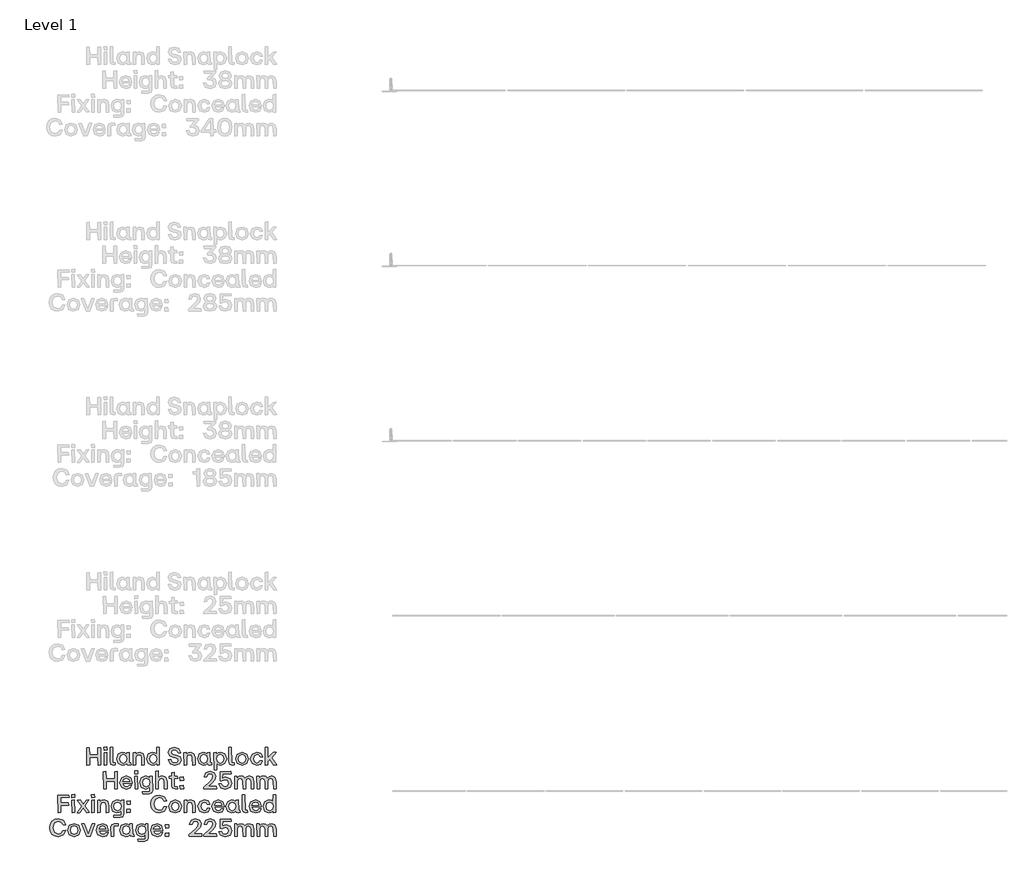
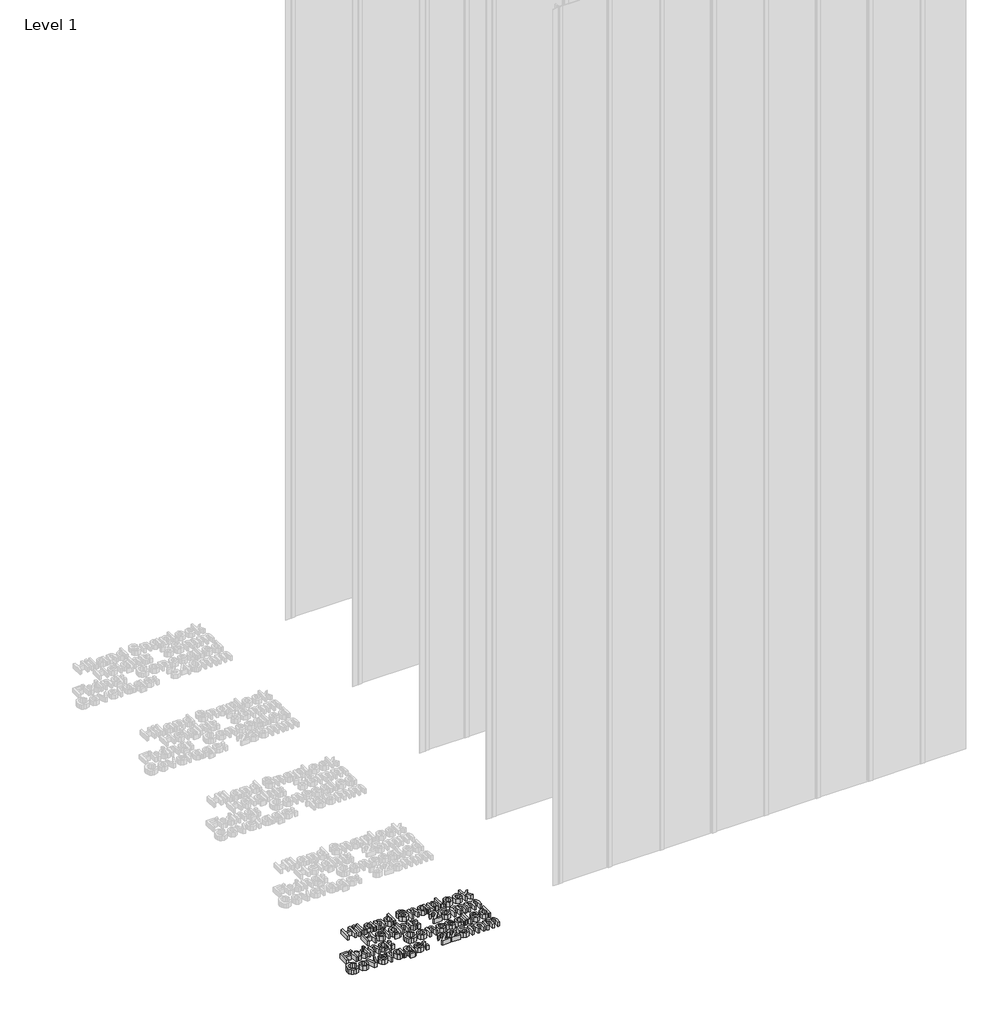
# One storey, part 4 of 64: 1 proxy.
"""IFC4 building model written with IfcOpenShell, lengths in millimetres."""

from ifc_helpers import new_model, si_unit, origin, origin_with_axes, place, context, project, spatial, polyline, outline, extrude, element, save

model = new_model("IFC4")

# Units and contexts
model_context = context("Model", 3, world=origin())
ifc_project = project(units=[si_unit("LENGTHUNIT", "METRE", prefix="MILLI")], contexts=[model_context])

# Site, building, storey
site = spatial("IfcSite", under=ifc_project)
building = spatial("IfcBuilding", under=site)
storey = spatial("IfcBuildingStorey", under=building, Name="Level 1", Elevation=0.0)

# Proxy
placement = place(None, origin())
element("IfcBuildingElementProxy", 1, Name="50mm", ObjectType="50mm", at=placement, inside=storey, context=model_context, shape_type="SweptSolid", body=[
    extrude(outline(polyline([(-811.1721134, -8933.5188866), (-811.8694452, -8911.5808277), (-835.7181932, -8911.5808277), (-835.7181932, -8932.8215548), (-843.2214836, -8933.5188866), (-843.9467087, -8884.2454206), (-836.457365, -8883.5201955), (-835.7181932, -8904.6075096), (-811.8694452, -8904.6075096), (-811.8694452, -8884.2454206), (-804.3801015, -8883.5201955), (-803.6827697, -8932.8215548), (-811.1721134, -8933.5188866)])), origin_with_axes(), (0.0, 0.0, 1.0), 20.0),
    extrude(outline(polyline([(-793.585405, -8933.5188866), (-794.3106301, -8897.8154977), (-787.1002191, -8897.1181659), (-786.4028873, -8932.8215548), (-793.585405, -8933.5188866)])), origin_with_axes(), (0.0, 0.0, 1.0), 20.0),
    extrude(outline(polyline([(-794.5198296, -8890.4516737), (-794.8684955, -8882.4044646), (-786.4726205, -8881.6652929), (-785.7334488, -8890.1030078), (-794.5198296, -8890.4516737)])), origin_with_axes(), (0.0, 0.0, 1.0), 20.0),
    extrude(outline(polyline([(-767.0031162, -8933.5188866), (-774.7016595, -8930.8690257), (-777.3515204, -8923.1565359), (-777.3515204, -8882.8228637), (-770.1411094, -8882.083692), (-769.4437776, -8927.2429003), (-762.7772854, -8927.2429003), (-762.0799536, -8932.8215548), (-767.0031162, -8933.5188866)])), origin_with_axes(), (0.0, 0.0, 1.0), 20.0),
    extrude(outline(polyline([(-741.9131175, -8933.9372857), (-753.6840786, -8928.8955767), (-758.0633224, -8915.3882594), (-753.6840786, -8901.7484491), (-741.9131175, -8896.6579269), (-735.2954386, -8898.2617901), (-730.3095161, -8902.6549805), (-729.9887435, -8897.8154977), (-722.8062258, -8897.1181659), (-722.0810007, -8927.2429003), (-718.1341027, -8927.2429003), (-717.4367709, -8932.8215548), (-723.4338245, -8933.5188866), (-728.0885143, -8932.2113895), (-729.6400776, -8928.288898), (-734.9955859, -8932.3334225), (-741.9131175, -8933.9372857)]), holes=[polyline([(-750.0021666, -8915.3882594), (-747.2477059, -8924.2792401), (-739.7234956, -8927.521833), (-732.3596717, -8924.2931867), (-729.7098108, -8915.3882594), (-732.3805916, -8906.392679), (-739.7234956, -8903.1152195), (-747.2477059, -8906.392679), (-750.0021666, -8915.3882594)])]), origin_with_axes(), (0.0, 0.0, 1.0), 20.0),
    extrude(outline(polyline([(-710.5750258, -8933.5188866), (-711.3002509, -8897.8154977), (-704.4385058, -8897.1181659), (-703.741174, -8902.6549805), (-698.5774319, -8898.1571903), (-691.9562663, -8896.6579269), (-682.3958472, -8900.8419178), (-679.083521, -8913.0870644), (-679.083521, -8932.8215548), (-686.3078786, -8933.5188866), (-687.0331037, -8913.0870644), (-688.9856328, -8905.7092939), (-695.1570194, -8903.3941522), (-701.3841925, -8905.7441604), (-703.3925081, -8913.0870644), (-703.3925081, -8932.8215548), (-710.5750258, -8933.5188866)])), origin_with_axes(), (0.0, 0.0, 1.0), 20.0),
    extrude(outline(polyline([(-656.2249842, -8933.9372857), (-667.9959452, -8928.8955767), (-672.375189, -8915.3882594), (-667.9959452, -8901.7484491), (-656.2249842, -8896.6579269), (-649.6073052, -8898.2617901), (-644.6213828, -8902.6549805), (-644.3006101, -8882.8228637), (-637.1180924, -8882.083692), (-636.3928674, -8932.8215548), (-643.2546124, -8933.5188866), (-643.9519442, -8928.0099653), (-649.3074526, -8932.3334225), (-656.2249842, -8933.9372857)]), holes=[polyline([(-664.3140332, -8915.3882594), (-661.5595725, -8924.2792401), (-654.0353623, -8927.521833), (-646.6715383, -8924.2931867), (-644.0216774, -8915.3882594), (-646.6924583, -8906.392679), (-654.0353623, -8903.1152195), (-661.5595725, -8906.392679), (-664.3140332, -8915.3882594)])]), origin_with_axes(), (0.0, 0.0, 1.0), 20.0),
    extrude(outline(polyline([(-592.2378169, -8933.9372857), (-605.8218406, -8929.823028), (-611.8049476, -8918.1078535), (-604.4411236, -8917.2989486), (-600.2780527, -8924.9417053), (-592.2378169, -8927.1034339), (-585.2854187, -8925.1160383), (-582.7959441, -8919.6001436), (-584.5183537, -8915.0186736), (-590.2852878, -8912.7383985), (-596.8820467, -8911.5808277), (-607.3629439, -8906.8180514), (-610.8565763, -8897.4668318), (-606.3797061, -8886.9022548), (-593.8835199, -8883.1017964), (-581.2897074, -8886.951068), (-575.6831596, -8897.8154977), (-583.0051436, -8898.610456), (-587.0287482, -8891.8672573), (-593.8835199, -8889.9635415), (-600.417519, -8891.706871), (-602.6699008, -8896.7973933), (-600.6615852, -8901.6299027), (-594.3716522, -8904.1612172), (-587.8167332, -8905.3048414), (-577.7193685, -8909.8932847), (-574.5953219, -8919.4606772), (-579.2883651, -8930.1019607), (-592.2378169, -8933.9372857)])), origin_with_axes(), (0.0, 0.0, 1.0), 20.0),
    extrude(outline(polyline([(-565.9763007, -8933.5188866), (-566.7015258, -8897.8154977), (-559.8397808, -8897.1181659), (-559.1424489, -8902.6549805), (-553.9787069, -8898.1571903), (-547.3575413, -8896.6579269), (-537.7971221, -8900.8419178), (-534.484796, -8913.0870644), (-534.484796, -8932.8215548), (-541.7091536, -8933.5188866), (-542.4343787, -8913.0870644), (-544.3869077, -8905.7092939), (-550.5582943, -8903.3941522), (-556.7854674, -8905.7441604), (-558.793783, -8913.0870644), (-558.793783, -8932.8215548), (-565.9763007, -8933.5188866)])), origin_with_axes(), (0.0, 0.0, 1.0), 20.0),
    extrude(outline(polyline([(-511.6262591, -8933.9372857), (-523.3972201, -8928.8955767), (-527.7764639, -8915.3882594), (-523.3972201, -8901.7484491), (-511.6262591, -8896.6579269), (-505.0085802, -8898.2617901), (-500.0226577, -8902.6549805), (-499.7018851, -8897.8154977), (-492.5193674, -8897.1181659), (-491.7941423, -8927.2429003), (-487.8472442, -8927.2429003), (-487.1499124, -8932.8215548), (-493.146966, -8933.5188866), (-497.8016559, -8932.2113895), (-499.3532192, -8928.288898), (-504.7087275, -8932.3334225), (-511.6262591, -8933.9372857)]), holes=[polyline([(-519.7153081, -8915.3882594), (-516.9608475, -8924.2792401), (-509.4366372, -8927.521833), (-502.0728132, -8924.2931867), (-499.4229523, -8915.3882594), (-502.0937332, -8906.392679), (-509.4366372, -8903.1152195), (-516.9608475, -8906.392679), (-519.7153081, -8915.3882594)])]), origin_with_axes(), (0.0, 0.0, 1.0), 20.0),
    extrude(outline(polyline([(-480.2881673, -8947.0750171), (-481.0133924, -8897.8154977), (-474.1516474, -8897.1181659), (-473.4543156, -8902.5852473), (-468.0988072, -8898.2617901), (-461.1812756, -8896.6579269), (-449.4103146, -8901.7135826), (-445.0310708, -8915.2487931), (-449.4103146, -8928.8607101), (-461.1812756, -8933.9372857), (-467.7989545, -8932.3334225), (-472.784877, -8927.9402321), (-473.1056497, -8946.3776853), (-480.2881673, -8947.0750171)]), holes=[polyline([(-473.3845824, -8915.2487931), (-470.7138015, -8924.2443735), (-463.3708975, -8927.521833), (-455.8466872, -8924.2443735), (-453.0922266, -8915.2487931), (-455.8466872, -8906.3578124), (-463.3708975, -8903.1152195), (-470.7347215, -8906.3368925), (-473.3845824, -8915.2487931)])]), origin_with_axes(), (0.0, 0.0, 1.0), 20.0),
    extrude(outline(polyline([(-427.8209216, -8933.5188866), (-435.5194648, -8930.8690257), (-438.1693257, -8923.1565359), (-438.1693257, -8882.8228637), (-430.9589148, -8882.083692), (-430.261583, -8927.2429003), (-423.5950908, -8927.2429003), (-422.897759, -8932.8215548), (-427.8209216, -8933.5188866)])), origin_with_axes(), (0.0, 0.0, 1.0), 20.0),
    extrude(outline(polyline([(-400.6807674, -8933.9372857), (-413.8394187, -8928.8118969), (-418.8811278, -8915.3882594), (-413.8254721, -8901.8530489), (-400.6807674, -8896.6579269), (-387.410543, -8901.8530489), (-382.3409407, -8915.3882594), (-387.410543, -8928.8118969), (-400.6807674, -8933.9372857)]), holes=[polyline([(-410.819972, -8915.3882594), (-408.1212979, -8924.2931867), (-400.6807674, -8927.521833), (-393.1426105, -8924.2792401), (-390.3881498, -8915.3882594), (-393.1286638, -8906.392679), (-400.6807674, -8903.1152195), (-408.1212979, -8906.392679), (-410.819972, -8915.3882594)])]), origin_with_axes(), (0.0, 0.0, 1.0), 20.0),
    extrude(outline(polyline([(-358.5898191, -8933.9372857), (-371.9228034, -8928.8955767), (-376.9296458, -8915.3882594), (-371.8530702, -8901.8530489), (-358.5898191, -8896.6579269), (-347.5161898, -8900.0957727), (-342.3001479, -8909.1820063), (-349.3153059, -8909.9490713), (-352.8856448, -8904.6493495), (-358.5898191, -8903.1152195), (-366.1488959, -8906.392679), (-368.86849, -8915.3882594), (-366.1349493, -8924.3141067), (-358.5898191, -8927.521833), (-352.7113119, -8926.0574362), (-349.733705, -8921.3155799), (-342.6488138, -8920.6461413), (-347.3069903, -8930.4994399), (-358.5898191, -8933.9372857)])), origin_with_axes(), (0.0, 0.0, 1.0), 20.0),
    extrude(outline(polyline([(-333.9042728, -8933.5188866), (-334.6294979, -8882.8228637), (-327.4190869, -8882.083692), (-326.7217551, -8912.8778649), (-311.4780817, -8897.4668318), (-303.5703389, -8897.1181659), (-316.2896712, -8912.0410667), (-302.2035685, -8932.6402485), (-309.8463252, -8933.5188866), (-321.5614997, -8917.2292154), (-326.7217551, -8922.2918444), (-326.7217551, -8932.8215548), (-333.9042728, -8933.5188866)])), origin_with_axes(), (0.0, 0.0, 1.0), 20.0),
    extrude(outline(polyline([(-763.8651231, -9001.3705811), (-764.5624549, -8979.4325222), (-788.4112029, -8979.4325222), (-788.4112029, -9000.6732493), (-795.9144933, -9001.3705811), (-796.6397184, -8952.0971151), (-789.1503747, -8951.37189), (-788.4112029, -8972.459204), (-764.5624549, -8972.459204), (-764.5624549, -8952.0971151), (-757.0731112, -8951.37189), (-756.3757794, -9000.6732493), (-763.8651231, -9001.3705811)])), origin_with_axes(), (0.0, 0.0, 1.0), 20.0),
    extrude(outline(polyline([(-730.7279152, -9001.7889802), (-744.1306327, -8996.7472711), (-749.1374751, -8983.2399539), (-744.1515527, -8969.586197), (-730.7279152, -8964.5096214), (-718.447902, -8969.5164638), (-713.9501118, -8983.1702207), (-713.9501118, -8985.0809099), (-741.0065862, -8985.8200816), (-737.9383262, -8992.8631329), (-730.7279152, -8995.3735275), (-724.9400612, -8994.0974102), (-721.9415344, -8990.520098), (-714.8566431, -8989.9343393), (-719.5148197, -8998.6998002), (-730.7279152, -9001.7889802)]), holes=[polyline([(-740.936853, -8980.0322275), (-721.7323348, -8980.0322275), (-724.3752224, -8973.3866554), (-730.7279152, -8970.966914), (-737.8197798, -8973.2681089), (-740.936853, -8980.0322275)])]), origin_with_axes(), (0.0, 0.0, 1.0), 20.0),
    extrude(outline(polyline([(-707.0465268, -8958.3033682), (-707.3951927, -8950.2561591), (-698.9993177, -8949.5169873), (-698.2601459, -8957.9547023), (-707.0465268, -8958.3033682)])), origin_with_axes(), (0.0, 0.0, 1.0), 20.0),
    extrude(outline(polyline([(-706.1121022, -9001.3705811), (-706.8373273, -8965.6671922), (-699.6269163, -8964.9698603), (-698.9295845, -9000.6732493), (-706.1121022, -9001.3705811)])), origin_with_axes(), (0.0, 0.0, 1.0), 20.0),
    extrude(outline(polyline([(-684.4390294, -9014.9267115), (-685.1782011, -9009.348057), (-663.937474, -9008.6507252), (-663.937474, -8995.7919266), (-669.2441691, -9000.185117), (-675.8618481, -9001.7889802), (-687.6328091, -8996.7124045), (-692.0120529, -8983.1004875), (-687.6328091, -8969.565277), (-675.8618481, -8964.5096214), (-668.9443165, -8966.1134845), (-663.8677409, -8970.4369418), (-663.5888081, -8965.6671922), (-656.7549563, -8964.9698603), (-656.0297313, -9004.9269733), (-658.609859, -9012.3675038), (-666.0294695, -9014.9267115), (-684.4390294, -9014.9267115)]), holes=[polyline([(-683.9508971, -8983.1004875), (-681.1964364, -8992.0960679), (-673.6722262, -8995.3735275), (-666.3293222, -8992.0960679), (-663.6585413, -8983.1004875), (-666.3084022, -8974.1885869), (-673.6722262, -8970.966914), (-681.1964364, -8974.2095069), (-683.9508971, -8983.1004875)])]), origin_with_axes(), (0.0, 0.0, 1.0), 20.0),
    extrude(outline(polyline([(-646.3089258, -9001.3705811), (-647.0341508, -8950.6745581), (-639.8237399, -8949.9353864), (-639.1264081, -8970.2277422), (-634.0393725, -8965.9391516), (-627.6901663, -8964.5096214), (-618.1297471, -8968.6936122), (-614.817421, -8980.9387589), (-614.817421, -9000.6732493), (-622.0417786, -9001.3705811), (-622.7670037, -8980.9387589), (-624.7195328, -8973.5609883), (-630.8909193, -8971.2458467), (-637.1180924, -8973.5958549), (-639.1264081, -8980.9387589), (-639.1264081, -9000.6732493), (-646.3089258, -9001.3705811)])), origin_with_axes(), (0.0, 0.0, 1.0), 20.0),
    extrude(outline(polyline([(-591.540485, -9001.3705811), (-599.2529749, -8998.7207202), (-601.9028358, -8991.0082303), (-601.9028358, -8971.2458467), (-608.109089, -8971.2458467), (-608.834314, -8965.6671922), (-601.9028358, -8964.9698603), (-601.9028358, -8954.9561755), (-594.6784782, -8954.2309504), (-593.9811464, -8964.9698603), (-585.1947655, -8964.9698603), (-584.4695404, -8970.506675), (-593.9811464, -8971.2458467), (-593.9811464, -8995.0945947), (-585.1947655, -8995.0945947), (-584.4695404, -9000.6732493), (-591.540485, -9001.3705811)])), origin_with_axes(), (0.0, 0.0, 1.0), 20.0),
    extrude(outline(polyline([(-577.0638766, -8977.7310326), (-577.7612084, -8968.1078535), (-568.2774957, -8967.3686818), (-567.5522706, -8977.0337007), (-577.0638766, -8977.7310326)])), origin_with_axes(), (0.0, 0.0, 1.0), 20.0),
    extrude(outline(polyline([(-577.4125425, -9001.0219152), (-577.7612084, -8991.747402), (-568.2774957, -8991.0082303), (-567.5522706, -9000.6732493), (-577.4125425, -9001.0219152)])), origin_with_axes(), (0.0, 0.0, 1.0), 20.0),
    extrude(outline(polyline([(-509.5761036, -9001.3705811), (-510.3013286, -8996.5868848), (-492.9377665, -8980.590093), (-485.7901154, -8972.6753769), (-483.8027197, -8965.3882594), (-485.783142, -8959.7084918), (-491.7244091, -8957.8152359), (-498.5931275, -8959.8932847), (-501.4452146, -8966.4621504), (-508.8787717, -8967.1594822), (-504.2903284, -8954.9631488), (-491.7244091, -8950.9534909), (-479.8976615, -8954.8236824), (-475.5742043, -8965.3882594), (-478.2589318, -8975.1648515), (-487.4288451, -8985.5690422), (-496.8846645, -8994.0764903), (-474.1516474, -8994.355423), (-473.4543156, -9000.6732493), (-509.5761036, -9001.3705811)])), origin_with_axes(), (0.0, 0.0, 1.0), 20.0),
    extrude(outline(polyline([(-448.1969572, -9001.7889802), (-461.3974485, -8998.0931215), (-467.2062225, -8987.3821049), (-459.8423985, -8986.5871466), (-455.634001, -8993.0200326), (-448.1969572, -8994.9551284), (-440.7912934, -8992.2704009), (-438.197219, -8984.6625108), (-440.7773467, -8977.3614467), (-448.3364236, -8974.8719721), (-458.6987744, -8978.8049235), (-463.5382572, -8978.5259908), (-462.4922594, -8952.0971151), (-432.8556573, -8951.37189), (-432.1304322, -8957.6757696), (-455.8397139, -8958.3731014), (-456.6346722, -8971.0366471), (-451.4604701, -8968.8400519), (-445.7562959, -8968.0381203), (-434.2015077, -8972.4661774), (-429.9965969, -8984.6625108), (-434.8081864, -8997.27027), (-448.1969572, -9001.7889802)])), origin_with_axes(), (0.0, 0.0, 1.0), 20.0),
    extrude(outline(polyline([(-421.3775756, -9001.3705811), (-422.1028007, -8965.6671922), (-415.2410557, -8964.9698603), (-414.5437239, -8970.506675), (-409.5578014, -8966.0088848), (-403.1074821, -8964.5096214), (-396.8210358, -8966.0088848), (-392.605665, -8970.506675), (-386.7829443, -8966.0646713), (-379.5376668, -8964.5096214), (-370.2631536, -8968.6796656), (-367.0554273, -8980.9387589), (-367.0554273, -9000.6732493), (-374.2658383, -9001.3705811), (-374.9631701, -8980.9387589), (-376.845966, -8973.5609883), (-382.8151263, -8971.2458467), (-388.7215268, -8973.5958549), (-390.6252426, -8980.9387589), (-390.6252426, -9000.6732493), (-397.8356536, -9001.3705811), (-398.5329854, -8980.9387589), (-400.4018347, -8973.5609883), (-406.3152085, -8971.2458467), (-412.2913421, -8973.5958549), (-414.195058, -8980.9387589), (-414.195058, -9000.6732493), (-421.3775756, -9001.3705811)])), origin_with_axes(), (0.0, 0.0, 1.0), 20.0),
    extrude(outline(polyline([(-358.0040603, -9001.3705811), (-358.7292854, -8965.6671922), (-351.8675404, -8964.9698603), (-351.1702086, -8970.506675), (-346.1842861, -8966.0088848), (-339.7339668, -8964.5096214), (-333.4475205, -8966.0088848), (-329.2321497, -8970.506675), (-323.409429, -8966.0646713), (-316.1641515, -8964.5096214), (-306.8896383, -8968.6796656), (-303.681912, -8980.9387589), (-303.681912, -9000.6732493), (-310.8923229, -9001.3705811), (-311.5896548, -8980.9387589), (-313.4724507, -8973.5609883), (-319.441611, -8971.2458467), (-325.3480115, -8973.5958549), (-327.2517273, -8980.9387589), (-327.2517273, -9000.6732493), (-334.4621383, -9001.3705811), (-335.1594701, -8980.9387589), (-337.0283194, -8973.5609883), (-342.9416931, -8971.2458467), (-348.9178268, -8973.5958549), (-350.8215426, -8980.9387589), (-350.8215426, -9000.6732493), (-358.0040603, -9001.3705811)])), origin_with_axes(), (0.0, 0.0, 1.0), 20.0),
    extrude(outline(polyline([(-925.3392781, -9069.2222755), (-926.0645031, -9019.9488095), (-894.4753719, -9019.2235844), (-893.7780401, -9025.527464), (-917.8359877, -9026.2247958), (-917.8359877, -9041.287163), (-895.9118755, -9041.287163), (-895.2145437, -9047.5631494), (-917.8359877, -9048.3023211), (-917.8359877, -9068.5249437), (-925.3392781, -9069.2222755)])), origin_with_axes(), (0.0, 0.0, 1.0), 20.0),
    extrude(outline(polyline([(-885.5216314, -9069.2222755), (-886.2468565, -9033.5188866), (-879.0364456, -9032.8215548), (-878.3391137, -9068.5249437), (-885.5216314, -9069.2222755)])), origin_with_axes(), (0.0, 0.0, 1.0), 20.0),
    extrude(outline(polyline([(-886.4560561, -9026.1550627), (-886.804722, -9018.1078535), (-878.4088469, -9017.3686818), (-877.6696752, -9025.8063967), (-886.4560561, -9026.1550627)])), origin_with_axes(), (0.0, 0.0, 1.0), 20.0),
    extrude(outline(polyline([(-871.4215821, -9069.2222755), (-858.6604099, -9050.7429824), (-870.8637167, -9033.658353), (-862.8722941, -9032.8215548), (-854.0859132, -9044.815662), (-845.8573978, -9033.2399539), (-837.7404555, -9032.8215548), (-849.3440569, -9049.9340775), (-836.303952, -9068.3436374), (-844.2953746, -9069.2222755), (-854.0161801, -9055.7916648), (-863.2906932, -9068.8038764), (-871.4215821, -9069.2222755)])), origin_with_axes(), (0.0, 0.0, 1.0), 20.0),
    extrude(outline(polyline([(-829.2887939, -9069.2222755), (-830.014019, -9033.5188866), (-822.803608, -9032.8215548), (-822.1062762, -9068.5249437), (-829.2887939, -9069.2222755)])), origin_with_axes(), (0.0, 0.0, 1.0), 20.0),
    extrude(outline(polyline([(-830.2232185, -9026.1550627), (-830.5718844, -9018.1078535), (-822.1760094, -9017.3686818), (-821.4368377, -9025.8063967), (-830.2232185, -9026.1550627)])), origin_with_axes(), (0.0, 0.0, 1.0), 20.0),
    extrude(outline(polyline([(-812.3296842, -9069.2222755), (-813.0549093, -9033.5188866), (-806.1931642, -9032.8215548), (-805.4958324, -9038.3583694), (-800.3320903, -9033.8605792), (-793.7109247, -9032.3613158), (-784.1505056, -9036.5453067), (-780.8381794, -9048.7904534), (-780.8381794, -9068.5249437), (-788.062537, -9069.2222755), (-788.7877621, -9048.7904534), (-790.7402912, -9041.4126828), (-796.9116778, -9039.0975411), (-803.1388509, -9041.4475493), (-805.1471665, -9048.7904534), (-805.1471665, -9068.5249437), (-812.3296842, -9069.2222755)])), origin_with_axes(), (0.0, 0.0, 1.0), 20.0),
    extrude(outline(polyline([(-766.5568239, -9082.778406), (-767.2959956, -9077.1997515), (-746.0552685, -9076.5024197), (-746.0552685, -9063.643621), (-751.3619636, -9068.0368114), (-757.9796426, -9069.6406746), (-769.7506036, -9064.564099), (-774.1298474, -9050.952182), (-769.7506036, -9037.4169715), (-757.9796426, -9032.3613158), (-751.0621109, -9033.965179), (-745.9855353, -9038.2886362), (-745.7066026, -9033.5188866), (-738.8727508, -9032.8215548), (-738.1475257, -9072.7786678), (-740.7276535, -9080.2191982), (-748.147264, -9082.778406), (-766.5568239, -9082.778406)]), holes=[polyline([(-766.0686916, -9050.952182), (-763.3142309, -9059.9477624), (-755.7900207, -9063.2252219), (-748.4471166, -9059.9477624), (-745.7763358, -9050.952182), (-748.4261967, -9042.0402814), (-755.7900207, -9038.8186084), (-763.3142309, -9042.0612013), (-766.0686916, -9050.952182)])]), origin_with_axes(), (0.0, 0.0, 1.0), 20.0),
    extrude(outline(polyline([(-729.1519453, -9068.8736096), (-729.5006112, -9059.5990965), (-720.0168986, -9058.8599248), (-719.2916735, -9068.5249437), (-729.1519453, -9068.8736096)])), origin_with_axes(), (0.0, 0.0, 1.0), 20.0),
    extrude(outline(polyline([(-728.8032794, -9045.582727), (-729.5006112, -9035.959548), (-720.0168986, -9035.2203762), (-719.2916735, -9044.8853952), (-728.8032794, -9045.582727)])), origin_with_axes(), (0.0, 0.0, 1.0), 20.0),
    extrude(outline(polyline([(-637.0483593, -9069.6406746), (-647.0550708, -9067.9269817), (-654.7605874, -9062.7859029), (-659.6767766, -9054.7160305), (-661.3155064, -9044.2159567), (-659.66283, -9033.8919591), (-654.7048008, -9025.7924501), (-646.9853376, -9020.5520015), (-637.0483593, -9018.8051853), (-622.8716035, -9023.4215219), (-615.9192053, -9035.7085085), (-623.2411893, -9036.5174134), (-628.4049314, -9028.3272513), (-637.0483593, -9025.8063967), (-648.7077472, -9030.743506), (-652.9475246, -9044.2159567), (-648.7286672, -9057.7999804), (-637.0483593, -9062.6673565), (-628.2340851, -9060.1813685), (-623.5480153, -9052.7234048), (-616.1284048, -9052.0679129), (-622.5926707, -9065.0382846), (-637.0483593, -9069.6406746)])), origin_with_axes(), (0.0, 0.0, 1.0), 20.0),
    extrude(outline(polyline([(-591.693898, -9069.6406746), (-604.8525494, -9064.5152858), (-609.8942584, -9051.0916483), (-604.8386027, -9037.5564378), (-591.693898, -9032.3613158), (-578.4236736, -9037.5564378), (-573.3540713, -9051.0916483), (-578.4236736, -9064.5152858), (-591.693898, -9069.6406746)]), holes=[polyline([(-601.8331026, -9051.0916483), (-599.1344285, -9059.9965756), (-591.693898, -9063.2252219), (-584.1557411, -9059.982629), (-581.4012805, -9051.0916483), (-584.1417945, -9042.0960679), (-591.693898, -9038.8186084), (-599.1344285, -9042.0960679), (-601.8331026, -9051.0916483)])]), origin_with_axes(), (0.0, 0.0, 1.0), 20.0),
    extrude(outline(polyline([(-565.083716, -9069.2222755), (-565.8089411, -9033.5188866), (-558.947196, -9032.8215548), (-558.2498642, -9038.3583694), (-553.0861221, -9033.8605792), (-546.4649565, -9032.3613158), (-536.9045374, -9036.5453067), (-533.5922113, -9048.7904534), (-533.5922113, -9068.5249437), (-540.8165689, -9069.2222755), (-541.5417939, -9048.7904534), (-543.494323, -9041.4126828), (-549.6657096, -9039.0975411), (-555.8928827, -9041.4475493), (-557.9011983, -9048.7904534), (-557.9011983, -9068.5249437), (-565.083716, -9069.2222755)])), origin_with_axes(), (0.0, 0.0, 1.0), 20.0),
    extrude(outline(polyline([(-508.5440525, -9069.6406746), (-521.8770368, -9064.5989656), (-526.8838792, -9051.0916483), (-521.8073036, -9037.5564378), (-508.5440525, -9032.3613158), (-497.4704233, -9035.7991616), (-492.2543813, -9044.8853952), (-499.2695393, -9045.6524602), (-502.8398782, -9040.3527384), (-508.5440525, -9038.8186084), (-516.1031293, -9042.0960679), (-518.8227234, -9051.0916483), (-516.0891827, -9060.0174956), (-508.5440525, -9063.2252219), (-502.6655453, -9061.7608251), (-499.6879384, -9057.0189688), (-492.6030472, -9056.3495302), (-497.2612237, -9066.2028288), (-508.5440525, -9069.6406746)])), origin_with_axes(), (0.0, 0.0, 1.0), 20.0),
    extrude(outline(polyline([(-468.3080068, -9069.6406746), (-481.7107242, -9064.5989656), (-486.7175667, -9051.0916483), (-481.7316442, -9037.4378914), (-468.3080068, -9032.3613158), (-456.0279935, -9037.3681582), (-451.5302033, -9051.0219152), (-451.5302033, -9052.9326043), (-478.5866777, -9053.6717761), (-475.5184177, -9060.7148274), (-468.3080068, -9063.2252219), (-462.5201527, -9061.9491047), (-459.5216259, -9058.3717925), (-452.4367347, -9057.7860338), (-457.0949112, -9066.5514947), (-468.3080068, -9069.6406746)]), holes=[polyline([(-478.5169445, -9047.883922), (-459.3124264, -9047.883922), (-461.9553139, -9041.2383498), (-468.3080068, -9038.8186084), (-475.3998713, -9041.1198034), (-478.5169445, -9047.883922)])]), origin_with_axes(), (0.0, 0.0, 1.0), 20.0),
    extrude(outline(polyline([(-430.4010493, -9069.6406746), (-442.1720104, -9064.5989656), (-446.5512542, -9051.0916483), (-442.1720104, -9037.4518381), (-430.4010493, -9032.3613158), (-423.7833704, -9033.965179), (-418.7974479, -9038.3583694), (-418.4766753, -9033.5188866), (-411.2941576, -9032.8215548), (-410.5689325, -9062.9462892), (-406.6220345, -9062.9462892), (-405.9247026, -9068.5249437), (-411.9217562, -9069.2222755), (-416.5764461, -9067.9147784), (-418.1280094, -9063.9922869), (-423.4835177, -9068.0368114), (-430.4010493, -9069.6406746)]), holes=[polyline([(-438.4900984, -9051.0916483), (-435.7356377, -9059.982629), (-428.2114274, -9063.2252219), (-420.8476035, -9059.9965756), (-418.1977426, -9051.0916483), (-420.8685234, -9042.0960679), (-428.2114274, -9038.8186084), (-435.7356377, -9042.0960679), (-438.4900984, -9051.0916483)])]), origin_with_axes(), (0.0, 0.0, 1.0), 20.0),
    extrude(outline(polyline([(-389.4397785, -9069.2222755), (-397.1383218, -9066.5724146), (-399.7881827, -9058.8599248), (-399.7881827, -9018.5262526), (-392.5777717, -9017.7870809), (-391.8804399, -9062.9462892), (-385.2139477, -9062.9462892), (-384.5166159, -9068.5249437), (-389.4397785, -9069.2222755)])), origin_with_axes(), (0.0, 0.0, 1.0), 20.0),
    extrude(outline(polyline([(-362.0904248, -9069.6406746), (-375.4931422, -9064.5989656), (-380.4999847, -9051.0916483), (-375.5140622, -9037.4378914), (-362.0904248, -9032.3613158), (-349.8104115, -9037.3681582), (-345.3126213, -9051.0219152), (-345.3126213, -9052.9326043), (-372.3690957, -9053.6717761), (-369.3008357, -9060.7148274), (-362.0904248, -9063.2252219), (-356.3025707, -9061.9491047), (-353.3040439, -9058.3717925), (-346.2191527, -9057.7860338), (-350.8773292, -9066.5514947), (-362.0904248, -9069.6406746)]), holes=[polyline([(-372.2993625, -9047.883922), (-353.0948444, -9047.883922), (-355.7377319, -9041.2383498), (-362.0904248, -9038.8186084), (-369.1822893, -9041.1198034), (-372.2993625, -9047.883922)])]), origin_with_axes(), (0.0, 0.0, 1.0), 20.0),
    extrude(outline(polyline([(-324.1834673, -9069.6406746), (-335.9544284, -9064.5989656), (-340.3336722, -9051.0916483), (-335.9544284, -9037.4518381), (-324.1834673, -9032.3613158), (-317.5657884, -9033.965179), (-312.5798659, -9038.3583694), (-312.2590933, -9018.5262526), (-305.0765756, -9017.7870809), (-304.3513505, -9068.5249437), (-311.2130956, -9069.2222755), (-311.9104274, -9063.7133542), (-317.2659357, -9068.0368114), (-324.1834673, -9069.6406746)]), holes=[polyline([(-332.2725164, -9051.0916483), (-329.5180557, -9059.982629), (-321.9938454, -9063.2252219), (-314.6300215, -9059.9965756), (-311.9801606, -9051.0916483), (-314.6509414, -9042.0960679), (-321.9938454, -9038.8186084), (-329.5180557, -9042.0960679), (-332.2725164, -9051.0916483)])]), origin_with_axes(), (0.0, 0.0, 1.0), 20.0),
    extrude(outline(polyline([(-925.3532247, -9137.4923691), (-935.3599362, -9135.7786761), (-943.0654528, -9130.6375973), (-947.9816421, -9122.5677249), (-949.6203718, -9112.0676511), (-947.9676954, -9101.7436536), (-943.0096662, -9093.6441446), (-935.290203, -9088.403696), (-925.3532247, -9086.6568798), (-911.1764689, -9091.2732164), (-904.2240707, -9103.560203), (-911.5460548, -9104.3691079), (-916.7097968, -9096.1789457), (-925.3532247, -9093.6580912), (-937.0126126, -9098.5952004), (-941.2523901, -9112.0676511), (-937.0335326, -9125.6516749), (-925.3532247, -9130.5190509), (-916.5389506, -9128.033063), (-911.8528808, -9120.5750992), (-904.4332703, -9119.9196073), (-910.8975362, -9132.8899791), (-925.3532247, -9137.4923691)])), origin_with_axes(), (0.0, 0.0, 1.0), 20.0),
    extrude(outline(polyline([(-879.9987635, -9137.4923691), (-893.1574148, -9132.3669802), (-898.1991238, -9118.9433428), (-893.1434682, -9105.4081323), (-879.9987635, -9100.2130103), (-866.728539, -9105.4081323), (-861.6589367, -9118.9433428), (-866.728539, -9132.3669802), (-879.9987635, -9137.4923691)]), holes=[polyline([(-890.1379681, -9118.9433428), (-887.4392939, -9127.8482701), (-879.9987635, -9131.0769164), (-872.4606066, -9127.8343234), (-869.7061459, -9118.9433428), (-872.4466599, -9109.9477624), (-879.9987635, -9106.6703029), (-887.4392939, -9109.9477624), (-890.1379681, -9118.9433428)])]), origin_with_axes(), (0.0, 0.0, 1.0), 20.0),
    extrude(outline(polyline([(-843.5562028, -9137.07397), (-857.9491315, -9101.5100474), (-850.6968806, -9100.6732493), (-839.2606389, -9130.5887841), (-828.4241025, -9101.2311147), (-821.0602785, -9100.6732493), (-834.1701166, -9136.5161045), (-843.5562028, -9137.07397)])), origin_with_axes(), (0.0, 0.0, 1.0), 20.0),
    extrude(outline(polyline([(-798.5643542, -9137.4923691), (-811.9670716, -9132.45066), (-816.9739141, -9118.9433428), (-811.9879916, -9105.2895859), (-798.5643542, -9100.2130103), (-786.2843409, -9105.2198527), (-781.7865507, -9118.8736096), (-781.7865507, -9120.7842988), (-808.8430251, -9121.5234705), (-805.7747651, -9128.5665218), (-798.5643542, -9131.0769164), (-792.7765001, -9129.8007992), (-789.7779733, -9126.2234869), (-782.6930821, -9125.6377282), (-787.3512586, -9134.4031891), (-798.5643542, -9137.4923691)]), holes=[polyline([(-808.7732919, -9115.7356165), (-789.5687738, -9115.7356165), (-792.2116613, -9109.0900443), (-798.5643542, -9106.6703029), (-805.6562187, -9108.9714978), (-808.7732919, -9115.7356165)])]), origin_with_axes(), (0.0, 0.0, 1.0), 20.0),
    extrude(outline(polyline([(-774.3251003, -9137.07397), (-775.0224321, -9110.9937601), (-772.3725712, -9103.3021902), (-764.674028, -9100.6732493), (-754.5208768, -9100.6732493), (-753.8235449, -9106.6703029), (-767.1146893, -9107.3676347), (-767.1146893, -9136.3766382), (-774.3251003, -9137.07397)])), origin_with_axes(), (0.0, 0.0, 1.0), 20.0),
    extrude(outline(polyline([(-732.9872703, -9137.4923691), (-744.7582313, -9132.45066), (-749.1374751, -9118.9433428), (-744.7582313, -9105.3035325), (-732.9872703, -9100.2130103), (-726.3695914, -9101.8168734), (-721.3836689, -9106.2100639), (-721.0628963, -9101.3705811), (-713.8803786, -9100.6732493), (-713.1551535, -9130.7979836), (-709.2082554, -9130.7979836), (-708.5109236, -9136.3766382), (-714.5079772, -9137.07397), (-719.1626671, -9135.7664728), (-720.7142304, -9131.8439814), (-726.0697387, -9135.8885059), (-732.9872703, -9137.4923691)]), holes=[polyline([(-741.0763194, -9118.9433428), (-738.3218587, -9127.8343234), (-730.7976484, -9131.0769164), (-723.4338245, -9127.8482701), (-720.7839636, -9118.9433428), (-723.4547444, -9109.9477624), (-730.7976484, -9106.6703029), (-738.3218587, -9109.9477624), (-741.0763194, -9118.9433428)])]), origin_with_axes(), (0.0, 0.0, 1.0), 20.0),
    extrude(outline(polyline([(-696.9352155, -9150.6301005), (-697.6743872, -9145.0514459), (-676.4336602, -9144.3541141), (-676.4336602, -9131.4953155), (-681.7403553, -9135.8885059), (-688.3580342, -9137.4923691), (-700.1289952, -9132.4157935), (-704.508239, -9118.8038764), (-700.1289952, -9105.2686659), (-688.3580342, -9100.2130103), (-681.4405026, -9101.8168734), (-676.363927, -9106.1403307), (-676.0849942, -9101.3705811), (-669.2511425, -9100.6732493), (-668.5259174, -9140.6303622), (-671.1060451, -9148.0708927), (-678.5256556, -9150.6301005), (-696.9352155, -9150.6301005)]), holes=[polyline([(-696.4470832, -9118.8038764), (-693.6926226, -9127.7994568), (-686.1684123, -9131.0769164), (-678.8255083, -9127.7994568), (-676.1547274, -9118.8038764), (-678.8045883, -9109.8919758), (-686.1684123, -9106.6703029), (-693.6926226, -9109.9128958), (-696.4470832, -9118.8038764)])]), origin_with_axes(), (0.0, 0.0, 1.0), 20.0),
    extrude(outline(polyline([(-643.2546124, -9137.4923691), (-656.6573299, -9132.45066), (-661.6641723, -9118.9433428), (-656.6782498, -9105.2895859), (-643.2546124, -9100.2130103), (-630.9745992, -9105.2198527), (-626.476809, -9118.8736096), (-626.476809, -9120.7842988), (-653.5332834, -9121.5234705), (-650.4650234, -9128.5665218), (-643.2546124, -9131.0769164), (-637.4667584, -9129.8007992), (-634.4682316, -9126.2234869), (-627.3833403, -9125.6377282), (-632.0415168, -9134.4031891), (-643.2546124, -9137.4923691)]), holes=[polyline([(-653.4635502, -9115.7356165), (-634.259032, -9115.7356165), (-636.9019196, -9109.0900443), (-643.2546124, -9106.6703029), (-650.346477, -9108.9714978), (-653.4635502, -9115.7356165)])]), origin_with_axes(), (0.0, 0.0, 1.0), 20.0),
    extrude(outline(polyline([(-619.0153585, -9113.4344215), (-619.7126904, -9103.8112424), (-610.2289777, -9103.0720707), (-609.5037526, -9112.7370896), (-619.0153585, -9113.4344215)])), origin_with_axes(), (0.0, 0.0, 1.0), 20.0),
    extrude(outline(polyline([(-619.3640244, -9136.7253041), (-619.7126904, -9127.4507909), (-610.2289777, -9126.7116192), (-609.5037526, -9136.3766382), (-619.3640244, -9136.7253041)])), origin_with_axes(), (0.0, 0.0, 1.0), 20.0),
    extrude(outline(polyline([(-551.5275855, -9137.07397), (-552.2528106, -9132.2902737), (-534.8892484, -9116.2934819), (-527.7415973, -9108.3787658), (-525.7542017, -9101.0916483), (-527.734624, -9095.4118807), (-533.6758911, -9093.5186248), (-540.5446094, -9095.5966736), (-543.3966966, -9102.1655393), (-550.8302537, -9102.8628712), (-546.2418104, -9090.6665377), (-533.6758911, -9086.6568798), (-521.8491435, -9090.5270714), (-517.5256862, -9101.0916483), (-520.2104137, -9110.8682404), (-529.3803271, -9121.2724311), (-538.8361465, -9129.7798792), (-516.1031293, -9130.0588119), (-515.4057975, -9136.3766382), (-551.5275855, -9137.07397)])), origin_with_axes(), (0.0, 0.0, 1.0), 20.0),
    extrude(outline(polyline([(-509.5761036, -9137.07397), (-510.3013286, -9132.2902737), (-492.9377665, -9116.2934819), (-485.7901154, -9108.3787658), (-483.8027197, -9101.0916483), (-485.783142, -9095.4118807), (-491.7244091, -9093.5186248), (-498.5931275, -9095.5966736), (-501.4452146, -9102.1655393), (-508.8787717, -9102.8628712), (-504.2903284, -9090.6665377), (-491.7244091, -9086.6568798), (-479.8976615, -9090.5270714), (-475.5742043, -9101.0916483), (-478.2589318, -9110.8682404), (-487.4288451, -9121.2724311), (-496.8846645, -9129.7798792), (-474.1516474, -9130.0588119), (-473.4543156, -9136.3766382), (-509.5761036, -9137.07397)])), origin_with_axes(), (0.0, 0.0, 1.0), 20.0),
    extrude(outline(polyline([(-448.1969572, -9137.4923691), (-461.3974485, -9133.7965104), (-467.2062225, -9123.0854938), (-459.8423985, -9122.2905355), (-455.634001, -9128.7234215), (-448.1969572, -9130.6585173), (-440.7912934, -9127.9737898), (-438.197219, -9120.3658997), (-440.7773467, -9113.0648356), (-448.3364236, -9110.575361), (-458.6987744, -9114.5083125), (-463.5382572, -9114.2293797), (-462.4922594, -9087.800504), (-432.8556573, -9087.0752789), (-432.1304322, -9093.3791585), (-455.8397139, -9094.0764903), (-456.6346722, -9106.740036), (-451.4604701, -9104.5434408), (-445.7562959, -9103.7415092), (-434.2015077, -9108.1695663), (-429.9965969, -9120.3658997), (-434.8081864, -9132.9736589), (-448.1969572, -9137.4923691)])), origin_with_axes(), (0.0, 0.0, 1.0), 20.0),
    extrude(outline(polyline([(-421.3775756, -9137.07397), (-422.1028007, -9101.3705811), (-415.2410557, -9100.6732493), (-414.5437239, -9106.2100639), (-409.5578014, -9101.7122737), (-403.1074821, -9100.2130103), (-396.8210358, -9101.7122737), (-392.605665, -9106.2100639), (-386.7829443, -9101.7680602), (-379.5376668, -9100.2130103), (-370.2631536, -9104.3830545), (-367.0554273, -9116.6421478), (-367.0554273, -9136.3766382), (-374.2658383, -9137.07397), (-374.9631701, -9116.6421478), (-376.845966, -9109.2643772), (-382.8151263, -9106.9492356), (-388.7215268, -9109.2992438), (-390.6252426, -9116.6421478), (-390.6252426, -9136.3766382), (-397.8356536, -9137.07397), (-398.5329854, -9116.6421478), (-400.4018347, -9109.2643772), (-406.3152085, -9106.9492356), (-412.2913421, -9109.2992438), (-414.195058, -9116.6421478), (-414.195058, -9136.3766382), (-421.3775756, -9137.07397)])), origin_with_axes(), (0.0, 0.0, 1.0), 20.0),
    extrude(outline(polyline([(-358.0040603, -9137.07397), (-358.7292854, -9101.3705811), (-351.8675404, -9100.6732493), (-351.1702086, -9106.2100639), (-346.1842861, -9101.7122737), (-339.7339668, -9100.2130103), (-333.4475205, -9101.7122737), (-329.2321497, -9106.2100639), (-323.409429, -9101.7680602), (-316.1641515, -9100.2130103), (-306.8896383, -9104.3830545), (-303.681912, -9116.6421478), (-303.681912, -9136.3766382), (-310.8923229, -9137.07397), (-311.5896548, -9116.6421478), (-313.4724507, -9109.2643772), (-319.441611, -9106.9492356), (-325.3480115, -9109.2992438), (-327.2517273, -9116.6421478), (-327.2517273, -9136.3766382), (-334.4621383, -9137.07397), (-335.1594701, -9116.6421478), (-337.0283194, -9109.2643772), (-342.9416931, -9106.9492356), (-348.9178268, -9109.2992438), (-350.8215426, -9116.6421478), (-350.8215426, -9136.3766382), (-358.0040603, -9137.07397)])), origin_with_axes(), (0.0, 0.0, 1.0), 20.0),
])

save(model, "model.ifc")
